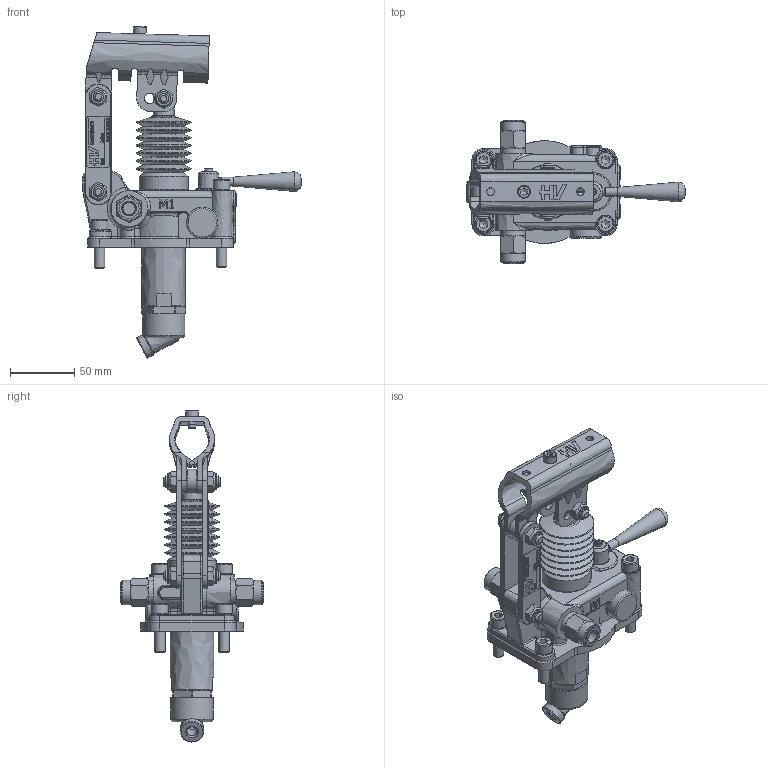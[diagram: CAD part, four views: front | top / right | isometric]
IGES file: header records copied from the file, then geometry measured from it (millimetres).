
Global section: file name: No Iges File Name specified; native system: Autodesk Inventor 2013; preprocessor: AutoDesk Inventor Iges Exporter R2013; author: christian.scardovi; date: 20240307.111658; units: millimetre
Bounding box: 170 x 112 x 258.53 mm (x, y, z)
Volume: 426914.9 mm3; surface area: 139852.8 mm2
Topology: 3 solids, 3 shells, 1738 faces, 4389 edges, 2774 vertices
Faces by surface type: bspline 1738
